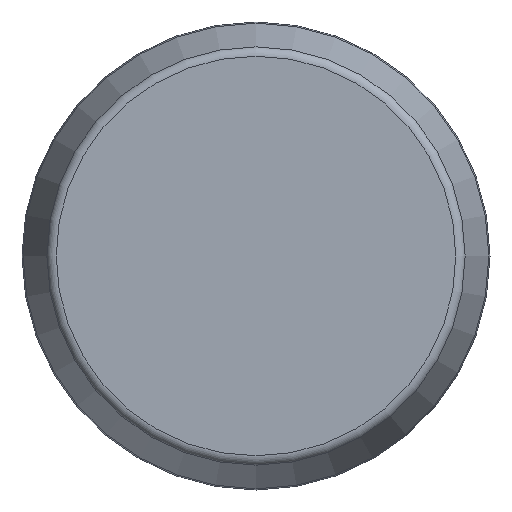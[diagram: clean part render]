
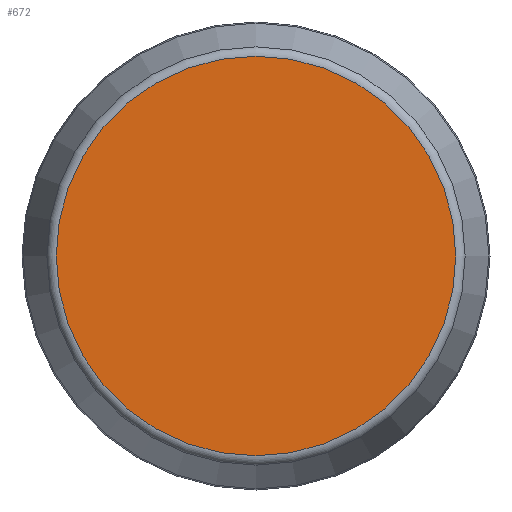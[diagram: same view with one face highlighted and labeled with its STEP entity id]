
A CAD part, left-side view. The second image highlights one B-rep face of the part: STEP entity #672.
In plain terms, the highlighted planar face has unit normal (-1, 0, 0).
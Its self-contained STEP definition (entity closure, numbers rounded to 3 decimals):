
#69=FACE_OUTER_BOUND('',#104,.T.);
#104=EDGE_LOOP('',(#548,#549));
#200=CIRCLE('',#763,2.015);
#201=CIRCLE('',#764,2.015);
#285=VERTEX_POINT('',#1277);
#286=VERTEX_POINT('',#1278);
#381=EDGE_CURVE('',#285,#286,#200,.T.);
#382=EDGE_CURVE('',#286,#285,#201,.T.);
#548=ORIENTED_EDGE('',*,*,#381,.F.);
#549=ORIENTED_EDGE('',*,*,#382,.F.);
#651=PLANE('',#762);
#672=ADVANCED_FACE('',(#69),#651,.T.);
#762=AXIS2_PLACEMENT_3D('',#1276,#948,#949);
#763=AXIS2_PLACEMENT_3D('',#1279,#950,#951);
#764=AXIS2_PLACEMENT_3D('',#1280,#952,#953);
#948=DIRECTION('center_axis',(-1.,0.,0.));
#949=DIRECTION('ref_axis',(0.,0.,1.));
#950=DIRECTION('center_axis',(1.,0.,0.));
#951=DIRECTION('ref_axis',(0.,0.,-1.));
#952=DIRECTION('center_axis',(1.,0.,0.));
#953=DIRECTION('ref_axis',(0.,0.,-1.));
#1276=CARTESIAN_POINT('Origin',(0.,2.015,0.));
#1277=CARTESIAN_POINT('',(0.,2.015,0.));
#1278=CARTESIAN_POINT('',(0.,0.,2.015));
#1279=CARTESIAN_POINT('Origin',(0.,0.,0.));
#1280=CARTESIAN_POINT('Origin',(0.,0.,0.));
